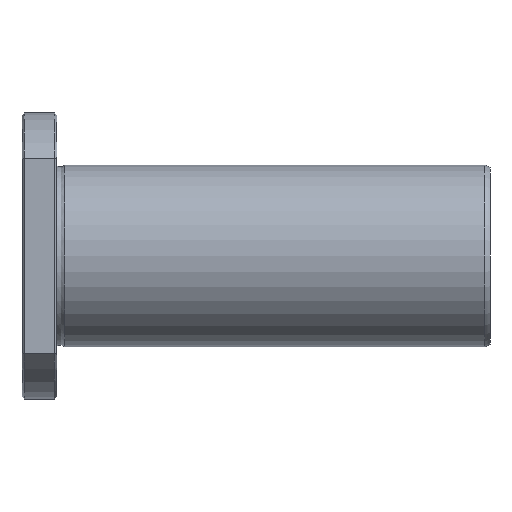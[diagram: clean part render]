
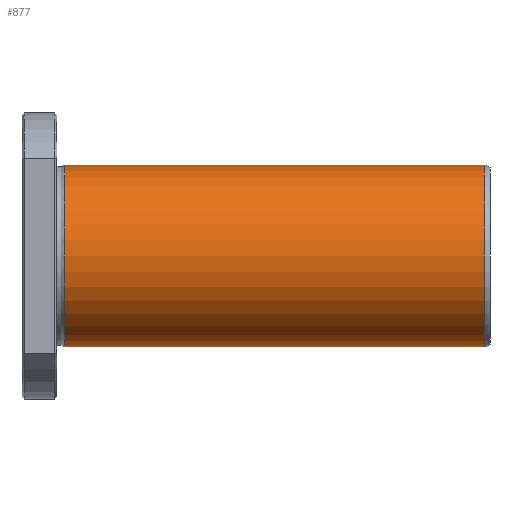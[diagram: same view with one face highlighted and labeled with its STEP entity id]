
A CAD part, front view. The second image highlights one B-rep face of the part: STEP entity #877.
In plain terms, the highlighted cylindrical face has radius 26 mm (diameter 52 mm), a full revolution.
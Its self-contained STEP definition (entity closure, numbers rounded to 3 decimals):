
#843=CARTESIAN_POINT('',(132.502,0.0,26.));
#844=VERTEX_POINT('',#843);
#845=CARTESIAN_POINT('',(132.502,0.0,0.0));
#846=DIRECTION('',(-1.0,0.0,0.0));
#847=DIRECTION('',(0.0,0.0,1.0));
#848=AXIS2_PLACEMENT_3D('',#845,#846,#847);
#849=CIRCLE('',#848,26.);
#850=EDGE_CURVE('',#844,#844,#849,.T.);
#858=CARTESIAN_POINT('',(72.362,0.0,0.0));
#859=DIRECTION('',(-1.0,0.0,0.0));
#860=DIRECTION('',(0.0,0.0,1.0));
#861=AXIS2_PLACEMENT_3D('',#858,#859,#860);
#862=CYLINDRICAL_SURFACE('',#861,26.);
#863=CARTESIAN_POINT('',(12.223,0.0,26.));
#864=VERTEX_POINT('',#863);
#865=CARTESIAN_POINT('',(12.223,0.0,0.0));
#866=DIRECTION('',(-1.0,0.0,0.0));
#867=DIRECTION('',(0.0,0.0,1.0));
#868=AXIS2_PLACEMENT_3D('',#865,#866,#867);
#869=CIRCLE('',#868,26.);
#870=EDGE_CURVE('',#864,#864,#869,.T.);
#871=ORIENTED_EDGE('',*,*,#870,.F.);
#872=EDGE_LOOP('',(#871));
#873=FACE_OUTER_BOUND('',#872,.T.);
#874=ORIENTED_EDGE('',*,*,#850,.T.);
#875=EDGE_LOOP('',(#874));
#876=FACE_BOUND('',#875,.T.);
#877=ADVANCED_FACE('',(#873,#876),#862,.T.);
